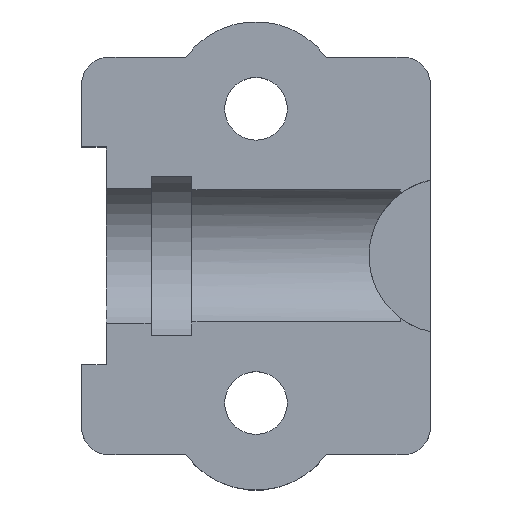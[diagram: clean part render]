
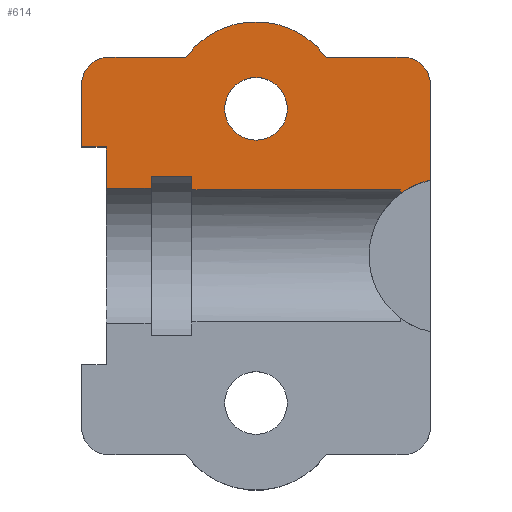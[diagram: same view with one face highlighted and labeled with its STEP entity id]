
A CAD part, top view. The second image highlights one B-rep face of the part: STEP entity #614.
In plain terms, the highlighted planar face has unit normal (0, 0, 1).
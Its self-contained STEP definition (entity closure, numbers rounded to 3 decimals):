
#32=FACE_BOUND('',#71,.T.);
#36=FACE_OUTER_BOUND('',#70,.T.);
#70=EDGE_LOOP('',(#412,#413,#414,#415,#416,#417,#418,#419,#420,#421,#422,
#423,#424,#425,#426,#427));
#71=EDGE_LOOP('',(#428));
#108=CIRCLE('',#663,2.85);
#109=CIRCLE('',#664,1.);
#110=CIRCLE('',#665,3.2);
#111=CIRCLE('',#666,1.);
#112=CIRCLE('',#667,1.15);
#138=LINE('',#921,#199);
#139=LINE('',#923,#200);
#140=LINE('',#927,#201);
#141=LINE('',#931,#202);
#142=LINE('',#935,#203);
#143=LINE('',#939,#204);
#144=LINE('',#941,#205);
#145=LINE('',#943,#206);
#146=LINE('',#945,#207);
#147=LINE('',#947,#208);
#148=LINE('',#949,#209);
#149=LINE('',#950,#210);
#199=VECTOR('',#730,1.);
#200=VECTOR('',#731,1.);
#201=VECTOR('',#734,1.);
#202=VECTOR('',#737,1.);
#203=VECTOR('',#740,1.);
#204=VECTOR('',#743,1.);
#205=VECTOR('',#744,1.);
#206=VECTOR('',#745,1.);
#207=VECTOR('',#746,1.);
#208=VECTOR('',#747,1.);
#209=VECTOR('',#748,1.);
#210=VECTOR('',#749,1.);
#260=VERTEX_POINT('',#919);
#261=VERTEX_POINT('',#920);
#262=VERTEX_POINT('',#922);
#263=VERTEX_POINT('',#924);
#264=VERTEX_POINT('',#926);
#265=VERTEX_POINT('',#928);
#266=VERTEX_POINT('',#930);
#267=VERTEX_POINT('',#932);
#268=VERTEX_POINT('',#934);
#269=VERTEX_POINT('',#936);
#270=VERTEX_POINT('',#938);
#271=VERTEX_POINT('',#940);
#272=VERTEX_POINT('',#942);
#273=VERTEX_POINT('',#944);
#274=VERTEX_POINT('',#946);
#275=VERTEX_POINT('',#948);
#276=VERTEX_POINT('',#951);
#320=EDGE_CURVE('',#260,#261,#138,.T.);
#321=EDGE_CURVE('',#262,#261,#139,.T.);
#322=EDGE_CURVE('',#263,#262,#108,.T.);
#323=EDGE_CURVE('',#263,#264,#140,.T.);
#324=EDGE_CURVE('',#264,#265,#109,.T.);
#325=EDGE_CURVE('',#266,#265,#141,.T.);
#326=EDGE_CURVE('',#266,#267,#110,.T.);
#327=EDGE_CURVE('',#268,#267,#142,.T.);
#328=EDGE_CURVE('',#268,#269,#111,.T.);
#329=EDGE_CURVE('',#270,#269,#143,.T.);
#330=EDGE_CURVE('',#271,#270,#144,.T.);
#331=EDGE_CURVE('',#272,#271,#145,.T.);
#332=EDGE_CURVE('',#272,#273,#146,.T.);
#333=EDGE_CURVE('',#273,#274,#147,.T.);
#334=EDGE_CURVE('',#274,#275,#148,.T.);
#335=EDGE_CURVE('',#260,#275,#149,.T.);
#336=EDGE_CURVE('',#276,#276,#112,.T.);
#412=ORIENTED_EDGE('',*,*,#320,.T.);
#413=ORIENTED_EDGE('',*,*,#321,.F.);
#414=ORIENTED_EDGE('',*,*,#322,.F.);
#415=ORIENTED_EDGE('',*,*,#323,.T.);
#416=ORIENTED_EDGE('',*,*,#324,.T.);
#417=ORIENTED_EDGE('',*,*,#325,.F.);
#418=ORIENTED_EDGE('',*,*,#326,.T.);
#419=ORIENTED_EDGE('',*,*,#327,.F.);
#420=ORIENTED_EDGE('',*,*,#328,.T.);
#421=ORIENTED_EDGE('',*,*,#329,.F.);
#422=ORIENTED_EDGE('',*,*,#330,.F.);
#423=ORIENTED_EDGE('',*,*,#331,.F.);
#424=ORIENTED_EDGE('',*,*,#332,.T.);
#425=ORIENTED_EDGE('',*,*,#333,.T.);
#426=ORIENTED_EDGE('',*,*,#334,.T.);
#427=ORIENTED_EDGE('',*,*,#335,.F.);
#428=ORIENTED_EDGE('',*,*,#336,.T.);
#596=PLANE('',#662);
#614=ADVANCED_FACE('',(#36,#32),#596,.T.);
#662=AXIS2_PLACEMENT_3D('',#918,#728,#729);
#663=AXIS2_PLACEMENT_3D('',#925,#732,#733);
#664=AXIS2_PLACEMENT_3D('',#929,#735,#736);
#665=AXIS2_PLACEMENT_3D('',#933,#738,#739);
#666=AXIS2_PLACEMENT_3D('',#937,#741,#742);
#667=AXIS2_PLACEMENT_3D('',#952,#750,#751);
#728=DIRECTION('center_axis',(0.,0.,1.));
#729=DIRECTION('ref_axis',(1.,0.,0.));
#730=DIRECTION('',(1.,0.,0.));
#731=DIRECTION('',(0.,1.,0.));
#732=DIRECTION('center_axis',(0.,0.,1.));
#733=DIRECTION('ref_axis',(1.,0.,0.));
#734=DIRECTION('',(0.,1.,0.));
#735=DIRECTION('center_axis',(0.,0.,1.));
#736=DIRECTION('ref_axis',(1.,0.,0.));
#737=DIRECTION('',(1.,0.,0.));
#738=DIRECTION('center_axis',(0.,0.,1.));
#739=DIRECTION('ref_axis',(1.,0.,0.));
#740=DIRECTION('',(1.,0.,0.));
#741=DIRECTION('center_axis',(0.,0.,1.));
#742=DIRECTION('ref_axis',(1.,0.,0.));
#743=DIRECTION('',(0.,1.,0.));
#744=DIRECTION('',(-1.,0.,0.));
#745=DIRECTION('',(0.,1.,0.));
#746=DIRECTION('',(1.,0.,0.));
#747=DIRECTION('',(0.,1.,0.));
#748=DIRECTION('',(1.,0.,0.));
#749=DIRECTION('',(0.,1.,0.));
#750=DIRECTION('center_axis',(0.,0.,-1.));
#751=DIRECTION('ref_axis',(1.,0.,0.));
#918=CARTESIAN_POINT('Origin',(-7.,2.,-8.3));
#919=CARTESIAN_POINT('',(-9.35,4.423,-8.3));
#920=CARTESIAN_POINT('',(-1.7,4.423,-8.3));
#921=CARTESIAN_POINT('',(-9.35,4.423,-8.3));
#922=CARTESIAN_POINT('',(-1.7,4.287,-8.3));
#923=CARTESIAN_POINT('',(-1.7,2.,-8.3));
#924=CARTESIAN_POINT('',(-0.6,4.786,-8.3));
#925=CARTESIAN_POINT('Origin',(0.,2.,-8.3));
#926=CARTESIAN_POINT('',(-0.6,8.3,-8.3));
#927=CARTESIAN_POINT('',(-0.6,2.,-8.3));
#928=CARTESIAN_POINT('',(-1.6,9.3,-8.3));
#929=CARTESIAN_POINT('Origin',(-1.6,8.3,-8.3));
#930=CARTESIAN_POINT('',(-4.425,9.3,-8.3));
#931=CARTESIAN_POINT('',(-7.,9.3,-8.3));
#932=CARTESIAN_POINT('',(-9.575,9.3,-8.3));
#933=CARTESIAN_POINT('Origin',(-7.,7.4,-8.3));
#934=CARTESIAN_POINT('',(-12.4,9.3,-8.3));
#935=CARTESIAN_POINT('',(-7.,9.3,-8.3));
#936=CARTESIAN_POINT('',(-13.4,8.3,-8.3));
#937=CARTESIAN_POINT('Origin',(-12.4,8.3,-8.3));
#938=CARTESIAN_POINT('',(-13.4,6.,-8.3));
#939=CARTESIAN_POINT('',(-13.4,2.,-8.3));
#940=CARTESIAN_POINT('',(-12.5,6.,-8.3));
#941=CARTESIAN_POINT('',(-11.,6.,-8.3));
#942=CARTESIAN_POINT('',(-12.5,4.48,-8.3));
#943=CARTESIAN_POINT('',(-12.5,0.,-8.3));
#944=CARTESIAN_POINT('',(-10.85,4.48,-8.3));
#945=CARTESIAN_POINT('',(-15.6,4.48,-8.3));
#946=CARTESIAN_POINT('',(-10.85,4.924,-8.3));
#947=CARTESIAN_POINT('',(-10.85,2.,-8.3));
#948=CARTESIAN_POINT('',(-9.35,4.924,-8.3));
#949=CARTESIAN_POINT('',(-10.85,4.924,-8.3));
#950=CARTESIAN_POINT('',(-9.35,2.,-8.3));
#951=CARTESIAN_POINT('',(-8.15,7.4,-8.3));
#952=CARTESIAN_POINT('Origin',(-7.,7.4,-8.3));
